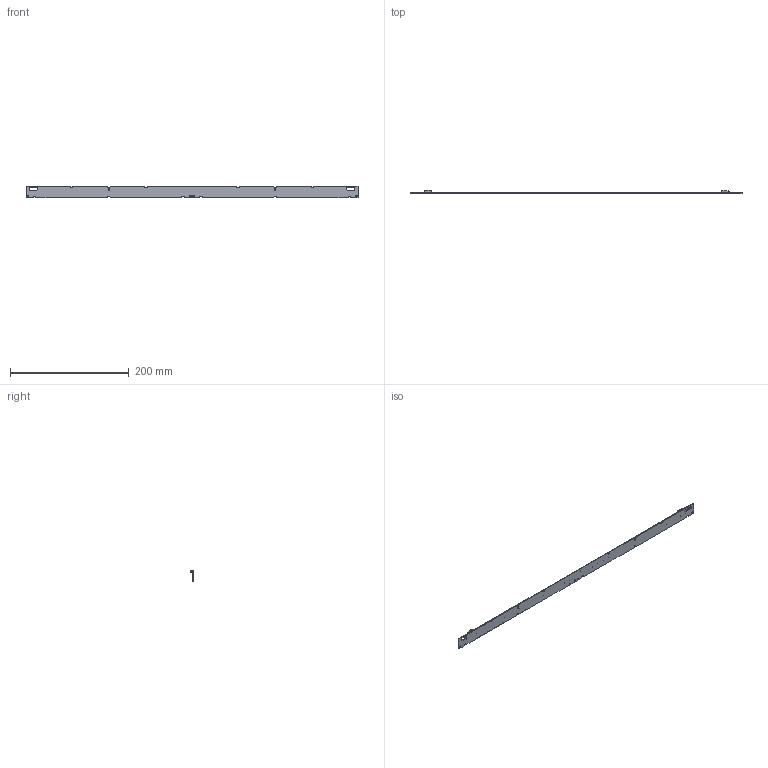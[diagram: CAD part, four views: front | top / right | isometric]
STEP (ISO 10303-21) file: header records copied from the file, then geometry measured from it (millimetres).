
FILE_DESCRIPTION((''),'2;1');
FILE_NAME('ASSEMBLY_WU-M-627_ASM','2019-07-11T15:59:35',('msavic'),(''),'CREO PARAMETRIC BY PTC INC, 2016510','CREO PARAMETRIC BY PTC INC, 2016510','');
FILE_SCHEMA(('AUTOMOTIVE_DESIGN { 1 0 10303 214 1 1 1 1 }'));
Products named in the file (14): BAZA___WU-M-627; STW8A12D127; PAD_3; PAD_1; PAD_2; CE-ZEICHEN-6MM; CE-ZEICHEN-6MM001; VSO-LOGO-5MM; BUILT-IN_LED_MODULE-5MM004; BUILT-IN_LED_MODULE-5MM003; BUILT-IN_LED_MODULE-5MM002; BUILT-IN_LED_MODULE-5MM001; 2060-451_1_2_3; ASSEMBLY_WU-M-627_ASM
Assembly tree (62 placements, depth 2):
  ASSEMBLY_WU-M-627_ASM
    BAZA___WU-M-627
    STW8A12D127  x48
    PAD_3
    PAD_1
    PAD_2
    CE-ZEICHEN-6MM
    CE-ZEICHEN-6MM001
    VSO-LOGO-5MM
    BUILT-IN_LED_MODULE-5MM004
    BUILT-IN_LED_MODULE-5MM003
    BUILT-IN_LED_MODULE-5MM002
    BUILT-IN_LED_MODULE-5MM001  x2
    2060-451_1_2_3  x2
Bounding box: 559 x 5.95 x 20 mm (x, y, z)
Volume: 18041.6 mm3; surface area: 25982.6 mm2
Topology: 62 solids, 62 shells, 4209 faces, 12769 edges, 8947 vertices
Faces by surface type: plane 2984, extrusion 898, cylinder 325, sphere 2
Entity records: 71312 total; most frequent: CARTESIAN_POINT 18919, ORIENTED_EDGE 10812, DIRECTION 6920, EDGE_CURVE 5406, VECTOR 4164, VERTEX_POINT 3663, LINE 3266, B_SPLINE_CURVE_WITH_KNOTS 2817
